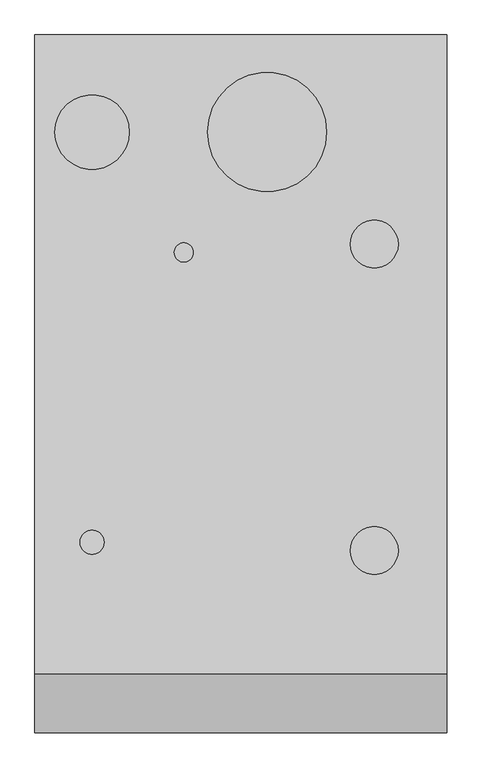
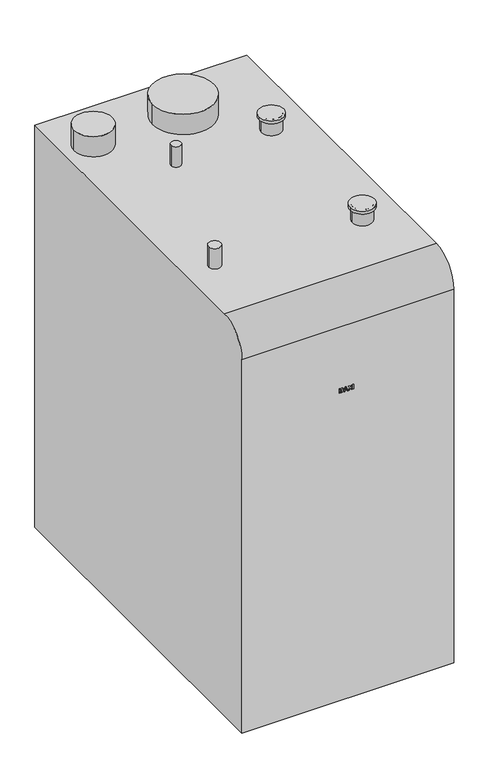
"""IFC4 building model written with IfcOpenShell, lengths in millimetres: proxy geometry, BAXI_ГазовыйКотел_Power_HT : BAXI_Газовый котел_Power_HT_1.230."""

from ifc_helpers import new_model, si_unit, point, frame, frame_2d, origin, place, context, project, spatial, polyline, circle_curve, trimmed, segment, composite_curve, outline, extrude, source, transform, mapped, element, save


def mechanical_equipment_c902e5fc(model_context):
    return source(origin(), model_context, "Body", "SweptSolid", [
        extrude(outline(polyline([(1077.0261683, -27.1214036), (1061.7222773, -27.1214036), (1061.7222773, -21.8910559), (1061.8247588, -18.1485865), (1062.5478221, -16.0666956), (1064.1154081, -14.7344372), (1066.1365693, -14.2467016), (1068.4329121, -14.9261154), (1069.8145134, -16.8694667), (1071.1695454, -15.307574), (1073.1508527, -14.7325394), (1074.9518686, -15.2145816), (1076.2385797, -16.4196871), (1076.874344, -18.0593897), (1077.0261683, -20.8396725), (1077.0261683, -27.1214036)]), holes=[polyline([(1074.3540604, -24.2063767), (1074.3540604, -22.2554343), (1071.0025386, -19.5150054), (1070.9531957, -21.9821505), (1070.9531957, -24.2063767), (1074.3540604, -24.2063767)]), polyline([(1068.2810878, -24.2063767), (1068.2810878, -21.5152907), (1064.4854799, -18.8393872), (1064.3943853, -21.1243431), (1064.3943853, -24.2063767), (1068.2810878, -24.2063767)])]), frame((0.0, -1171.0, 0.0), z_axis=(0.0, 1.0, 0.0), x_axis=(0.0, 0.0, 1.0)), (0.0, 0.0, 1.0), 5.0),
        extrude(outline(polyline([(1061.7222773, 1.0571894), (1077.0261683, -4.5830839), (1077.0261683, -7.6878912), (1061.7222773, -13.275026), (1061.7222773, -10.1702188), (1065.123142, -8.9859891), (1065.123142, -3.2052783), (1061.7222773, -2.0058662), (1061.7222773, 1.0571894)]), holes=[polyline([(1067.79525, -4.1389978), (1067.79525, -8.0522696), (1073.3823848, -6.1089183), (1067.79525, -4.1389978)])]), frame((0.0, -1171.0, 0.0), z_axis=(0.0, 1.0, 0.0), x_axis=(0.0, 0.0, 1.0)), (0.0, 0.0, 1.0), 5.0),
        extrude(outline(polyline([(1061.7222773, 1.1786488), (1061.7222773, 4.5871047), (1067.127223, 8.1018376), (1061.7222773, 11.6165705), (1061.7222773, 15.0250264), (1069.7461924, 9.8060656), (1077.0261683, 14.5391886), (1077.0261683, 11.1307327), (1072.3689575, 8.1018376), (1077.0261683, 5.0729425), (1077.0261683, 1.6644866), (1069.7461924, 6.3976097), (1061.7222773, 1.1786488)])), frame((0.0, -1171.0, 0.0), z_axis=(0.0, 1.0, 0.0), x_axis=(0.0, 0.0, 1.0)), (0.0, 0.0, 1.0), 5.0),
        extrude(outline(polyline([(16.6039993, -1166.0), (19.5190261, -1166.0), (19.5190261, -1171.0), (16.6039993, -1171.0), (16.6039993, -1166.0)])), frame((0.0, 0.0, 1061.7222773), z_axis=(0.0, 0.0, 1.0), x_axis=(1.0, 0.0, 0.0)), (0.0, 0.0, 1.0), 15.303891),
        extrude(outline(composite_curve([segment(trimmed(circle_curve(frame_2d((224.0, -351.0)), 40.0), [point((184.0, -351.0))], [point((264.0, -351.0))], False, "CARTESIAN"), True, "CONTINUOUS"), segment(trimmed(circle_curve(frame_2d((224.0, -351.0)), 40.0), [point((264.0, -351.0))], [point((184.0, -351.0))], False, "CARTESIAN"), True, "CONTINUOUS")], self_intersect=False)), frame((0.0, 0.0, 1435.0), z_axis=(0.0, 0.0, 1.0), x_axis=(1.0, 0.0, 0.0)), (0.0, 0.0, 1.0), 10.0),
        extrude(outline(composite_curve([segment(trimmed(circle_curve(frame_2d((224.0, -865.0)), 40.0), [point((184.0, -865.0))], [point((264.0, -865.0))], False, "CARTESIAN"), True, "CONTINUOUS"), segment(trimmed(circle_curve(frame_2d((224.0, -865.0)), 40.0), [point((264.0, -865.0))], [point((184.0, -865.0))], False, "CARTESIAN"), True, "CONTINUOUS")], self_intersect=False)), frame((0.0, 0.0, 1435.0), z_axis=(0.0, 0.0, 1.0), x_axis=(1.0, 0.0, 0.0)), (0.0, 0.0, 1.0), 10.0),
        extrude(outline(composite_curve([segment(trimmed(circle_curve(frame_2d((44.0, -163.0)), 100.0), [point((-56.0, -163.0))], [point((144.0, -163.0))], False, "CARTESIAN"), True, "CONTINUOUS"), segment(trimmed(circle_curve(frame_2d((44.0, -163.0)), 100.0), [point((144.0, -163.0))], [point((-56.0, -163.0))], False, "CARTESIAN"), True, "CONTINUOUS")], self_intersect=False)), frame((0.0, 0.0, 1389.0), z_axis=(0.0, 0.0, 1.0), x_axis=(1.0, 0.0, 0.0)), (0.0, 0.0, 1.0), 70.0),
        extrude(outline(composite_curve([segment(trimmed(circle_curve(frame_2d((-96.0, -365.0)), 16.0), [point((-112.0, -365.0))], [point((-80.0, -365.0))], False, "CARTESIAN"), True, "CONTINUOUS"), segment(trimmed(circle_curve(frame_2d((-96.0, -365.0)), 16.0), [point((-80.0, -365.0))], [point((-112.0, -365.0))], False, "CARTESIAN"), True, "CONTINUOUS")], self_intersect=False)), frame((0.0, 0.0, 1389.0), z_axis=(0.0, 0.0, 1.0), x_axis=(1.0, 0.0, 0.0)), (0.0, 0.0, 1.0), 70.0),
        extrude(outline(composite_curve([segment(trimmed(circle_curve(frame_2d((-250.0, -851.0)), 20.0), [point((-270.0, -851.0))], [point((-230.0, -851.0))], False, "CARTESIAN"), True, "CONTINUOUS"), segment(trimmed(circle_curve(frame_2d((-250.0, -851.0)), 20.0), [point((-230.0, -851.0))], [point((-270.0, -851.0))], False, "CARTESIAN"), True, "CONTINUOUS")], self_intersect=False)), frame((0.0, 0.0, 1389.0), z_axis=(0.0, 0.0, 1.0), x_axis=(1.0, 0.0, 0.0)), (0.0, 0.0, 1.0), 70.0),
        extrude(outline(composite_curve([segment(trimmed(circle_curve(frame_2d((224.0, -865.0)), 32.5), [point((191.5, -865.0))], [point((256.5, -865.0))], False, "CARTESIAN"), True, "CONTINUOUS"), segment(trimmed(circle_curve(frame_2d((224.0, -865.0)), 32.5), [point((256.5, -865.0))], [point((191.5, -865.0))], False, "CARTESIAN"), True, "CONTINUOUS")], self_intersect=False)), frame((0.0, 0.0, 1389.0), z_axis=(0.0, 0.0, 1.0), x_axis=(1.0, 0.0, 0.0)), (0.0, 0.0, 1.0), 56.0),
        extrude(outline(composite_curve([segment(trimmed(circle_curve(frame_2d((224.0, -351.0)), 32.5), [point((191.5, -351.0))], [point((256.5, -351.0))], False, "CARTESIAN"), True, "CONTINUOUS"), segment(trimmed(circle_curve(frame_2d((224.0, -351.0)), 32.5), [point((256.5, -351.0))], [point((191.5, -351.0))], False, "CARTESIAN"), True, "CONTINUOUS")], self_intersect=False)), frame((0.0, 0.0, 1389.0), z_axis=(0.0, 0.0, 1.0), x_axis=(1.0, 0.0, 0.0)), (0.0, 0.0, 1.0), 56.0),
        extrude(outline(composite_curve([segment(trimmed(circle_curve(frame_2d((-250.0, -163.0)), 62.5), [point((-312.5, -163.0))], [point((-187.5, -163.0))], False, "CARTESIAN"), True, "CONTINUOUS"), segment(trimmed(circle_curve(frame_2d((-250.0, -163.0)), 62.5), [point((-187.5, -163.0))], [point((-312.5, -163.0))], False, "CARTESIAN"), True, "CONTINUOUS")], self_intersect=False)), frame((0.0, 0.0, 1389.0), z_axis=(0.0, 0.0, 1.0), x_axis=(1.0, 0.0, 0.0)), (0.0, 0.0, 1.0), 70.0),
        extrude(outline(composite_curve([segment(polyline([(0.0, 0.0), (-1171.0, 0.0), (-1171.0, 1289.9879617)]), True, "CONTINUOUS"), segment(trimmed(circle_curve(frame_2d((-1071.9879617, 1289.9879617)), 99.0120383), [point((-1171.0, 1289.9879617))], [point((-1071.9879617, 1389.0))], False, "CARTESIAN"), True, "CONTINUOUS"), segment(polyline([(-1071.9879617, 1389.0), (0.0, 1389.0), (0.0, 0.0)]), True, "CONTINUOUS")], self_intersect=False)), frame((-346.0, 0.0, 0.0), z_axis=(1.0, 0.0, 0.0), x_axis=(0.0, 1.0, 0.0)), (0.0, 0.0, 1.0), 692.0),
    ])


if __name__ == "__main__":
    model = new_model("IFC4")
    model_context = context("Model", 3, world=origin())
    ifc_project = project(units=[si_unit("LENGTHUNIT", "METRE", prefix="MILLI")], contexts=[model_context])
    site = spatial("IfcSite", under=ifc_project)
    building = spatial("IfcBuilding", under=site)
    placement = place(None, origin())
    mechanical_equipment_shape = mechanical_equipment_c902e5fc(model_context)
    element("IfcBuildingElementProxy", 1, Name="BAXI_ГазовыйКотел_Power_HT : BAXI_Газовый котел_Power_HT_1.230", ObjectType="BAXI_ГазовыйКотел_Power_HT : BAXI_Газовый котел_Power_HT_1.230", at=placement, inside=building, context=model_context, shape_type="MappedRepresentation", body=[
        mapped(mechanical_equipment_shape, transform((0.0, 0.0, 0.0), x_axis=(1.0, 0.0, 0.0), y_axis=(0.0, 1.0, 0.0), z_axis=(0.0, 0.0, 1.0))),
    ])
    save(model, "model.ifc")
